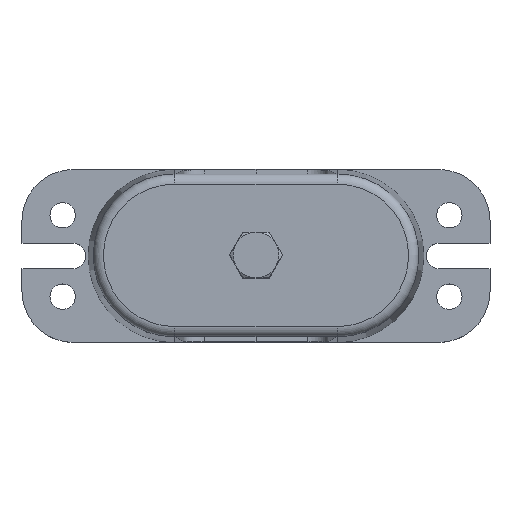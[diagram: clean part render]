
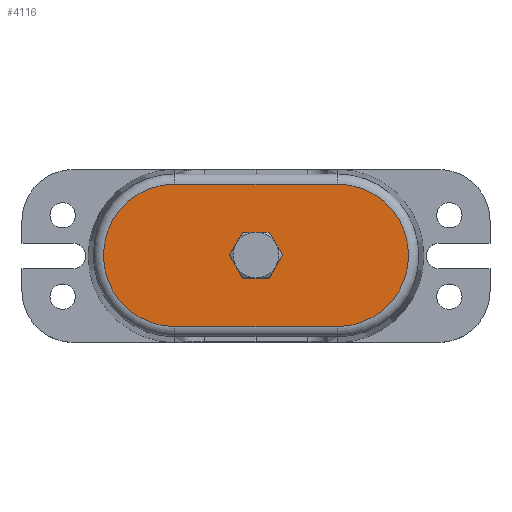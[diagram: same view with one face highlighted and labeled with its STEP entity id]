
A CAD part, top view. The second image highlights one B-rep face of the part: STEP entity #4116.
In plain terms, the highlighted planar face has unit normal (0, 0, 1).
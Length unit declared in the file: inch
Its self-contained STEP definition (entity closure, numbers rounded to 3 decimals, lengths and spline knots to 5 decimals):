
#112=FACE_BOUND('',#1312,.T.);
#253=PLANE('',#4465);
#479=LINE('',#8308,#758);
#480=LINE('',#8311,#759);
#758=VECTOR('',#5310,2.);
#759=VECTOR('',#5313,2.);
#1044=FACE_OUTER_BOUND('',#1311,.T.);
#1311=EDGE_LOOP('',(#3301,#3302,#3303,#3304));
#1312=EDGE_LOOP('',(#3305,#3306,#3307,#3308,#3309,#3310));
#1505=CIRCLE('',#4442,0.2815);
#1506=CIRCLE('',#4444,0.2815);
#1507=CIRCLE('',#4446,0.2815);
#1508=CIRCLE('',#4448,0.2815);
#1509=CIRCLE('',#4450,0.2815);
#1510=CIRCLE('',#4452,0.2815);
#1511=CIRCLE('',#4466,0.875);
#1512=CIRCLE('',#4467,0.875);
#1860=VERTEX_POINT('',#8184);
#1862=VERTEX_POINT('',#8189);
#1864=VERTEX_POINT('',#8196);
#1865=VERTEX_POINT('',#8205);
#1868=VERTEX_POINT('',#8216);
#1869=VERTEX_POINT('',#8225);
#1878=VERTEX_POINT('',#8304);
#1879=VERTEX_POINT('',#8305);
#1880=VERTEX_POINT('',#8307);
#1881=VERTEX_POINT('',#8309);
#2346=EDGE_CURVE('',#1862,#1860,#1505,.T.);
#2350=EDGE_CURVE('',#1864,#1862,#1506,.T.);
#2352=EDGE_CURVE('',#1860,#1865,#1507,.T.);
#2356=EDGE_CURVE('',#1868,#1864,#1508,.T.);
#2358=EDGE_CURVE('',#1865,#1869,#1509,.T.);
#2361=EDGE_CURVE('',#1869,#1868,#1510,.T.);
#2381=EDGE_CURVE('',#1878,#1879,#1511,.T.);
#2382=EDGE_CURVE('',#1880,#1878,#479,.T.);
#2383=EDGE_CURVE('',#1881,#1880,#1512,.T.);
#2384=EDGE_CURVE('',#1879,#1881,#480,.T.);
#3301=ORIENTED_EDGE('',*,*,#2381,.F.);
#3302=ORIENTED_EDGE('',*,*,#2382,.F.);
#3303=ORIENTED_EDGE('',*,*,#2383,.F.);
#3304=ORIENTED_EDGE('',*,*,#2384,.F.);
#3305=ORIENTED_EDGE('',*,*,#2346,.T.);
#3306=ORIENTED_EDGE('',*,*,#2352,.T.);
#3307=ORIENTED_EDGE('',*,*,#2358,.T.);
#3308=ORIENTED_EDGE('',*,*,#2361,.T.);
#3309=ORIENTED_EDGE('',*,*,#2356,.T.);
#3310=ORIENTED_EDGE('',*,*,#2350,.T.);
#4116=ADVANCED_FACE('',(#1044,#112),#253,.T.);
#4442=AXIS2_PLACEMENT_3D('',#8190,#5254,#5255);
#4444=AXIS2_PLACEMENT_3D('',#8203,#5258,#5259);
#4446=AXIS2_PLACEMENT_3D('',#8210,#5262,#5263);
#4448=AXIS2_PLACEMENT_3D('',#8223,#5266,#5267);
#4450=AXIS2_PLACEMENT_3D('',#8230,#5270,#5271);
#4452=AXIS2_PLACEMENT_3D('',#8239,#5274,#5275);
#4465=AXIS2_PLACEMENT_3D('',#8303,#5306,#5307);
#4466=AXIS2_PLACEMENT_3D('',#8306,#5308,#5309);
#4467=AXIS2_PLACEMENT_3D('',#8310,#5311,#5312);
#5254=DIRECTION('center_axis',(0.,0.,
-1.));
#5255=DIRECTION('ref_axis',(1.,0.,0.));
#5258=DIRECTION('center_axis',(0.,0.,
-1.));
#5259=DIRECTION('ref_axis',(1.,0.,0.));
#5262=DIRECTION('center_axis',(0.,0.,
-1.));
#5263=DIRECTION('ref_axis',(1.,0.,0.));
#5266=DIRECTION('center_axis',(0.,0.,
-1.));
#5267=DIRECTION('ref_axis',(1.,0.,0.));
#5270=DIRECTION('center_axis',(0.,0.,
-1.));
#5271=DIRECTION('ref_axis',(1.,0.,0.));
#5274=DIRECTION('center_axis',(0.,0.,
-1.));
#5275=DIRECTION('ref_axis',(1.,0.,0.));
#5306=DIRECTION('center_axis',(0.,0.,
1.));
#5307=DIRECTION('ref_axis',(1.,0.,0.));
#5308=DIRECTION('center_axis',(0.,0.,
-1.));
#5309=DIRECTION('ref_axis',(-1.,0.,0.));
#5310=DIRECTION('',(-1.,0.,0.));
#5311=DIRECTION('center_axis',(0.,0.,
-1.));
#5312=DIRECTION('ref_axis',(1.,0.,0.));
#5313=DIRECTION('',(1.,0.,0.));
#8184=CARTESIAN_POINT('',(-0.24379,0.14075,4.5));
#8189=CARTESIAN_POINT('',(-0.24379,-0.14075,4.5));
#8190=CARTESIAN_POINT('Origin',(0.,0.,
4.5));
#8196=CARTESIAN_POINT('',(0.,-0.2815,4.5));
#8203=CARTESIAN_POINT('Origin',(0.,0.,
4.5));
#8205=CARTESIAN_POINT('',(0.,0.2815,4.5));
#8210=CARTESIAN_POINT('Origin',(0.,0.,
4.5));
#8216=CARTESIAN_POINT('',(0.24379,-0.14075,4.5));
#8223=CARTESIAN_POINT('Origin',(0.,0.,
4.5));
#8225=CARTESIAN_POINT('',(0.24379,0.14075,4.5));
#8230=CARTESIAN_POINT('Origin',(0.,0.,
4.5));
#8239=CARTESIAN_POINT('Origin',(0.,0.,
4.5));
#8303=CARTESIAN_POINT('Origin',(0.,0.,
4.5));
#8304=CARTESIAN_POINT('',(-1.,-0.875,4.5));
#8305=CARTESIAN_POINT('',(-1.,0.875,4.5));
#8306=CARTESIAN_POINT('Origin',(-1.,0.,
4.5));
#8307=CARTESIAN_POINT('',(1.,-0.875,4.5));
#8308=CARTESIAN_POINT('',(-0.5,-0.875,4.5));
#8309=CARTESIAN_POINT('',(1.,0.875,4.5));
#8310=CARTESIAN_POINT('Origin',(1.,0.,4.5));
#8311=CARTESIAN_POINT('',(0.5,0.875,4.5));
